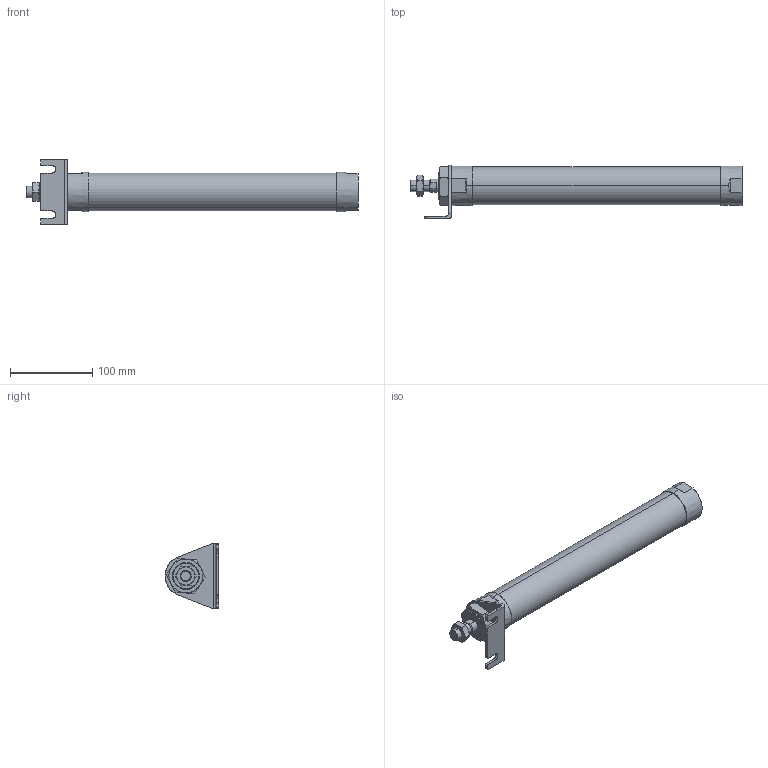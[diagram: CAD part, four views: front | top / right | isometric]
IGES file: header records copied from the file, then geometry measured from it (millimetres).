
Start section: SolidWorks IGES file using analytic representation for surfaces
Global section: file name: C:\Users\Toshiba\Desktop\JGND2-40-250-L.IGS; native system: SolidWorks 2014; preprocessor: SolidWorks 2014; author: Toshiba; date: 160804.111512; units: millimetre
Bounding box: 403 x 65 x 80 mm (x, y, z)
Surface area: 76058.3 mm2 (no closed solid volume)
Topology: 0 solids, 0 shells, 116 faces, 2112 edges, 2108 vertices
Faces by surface type: bspline 71, revolution 45
